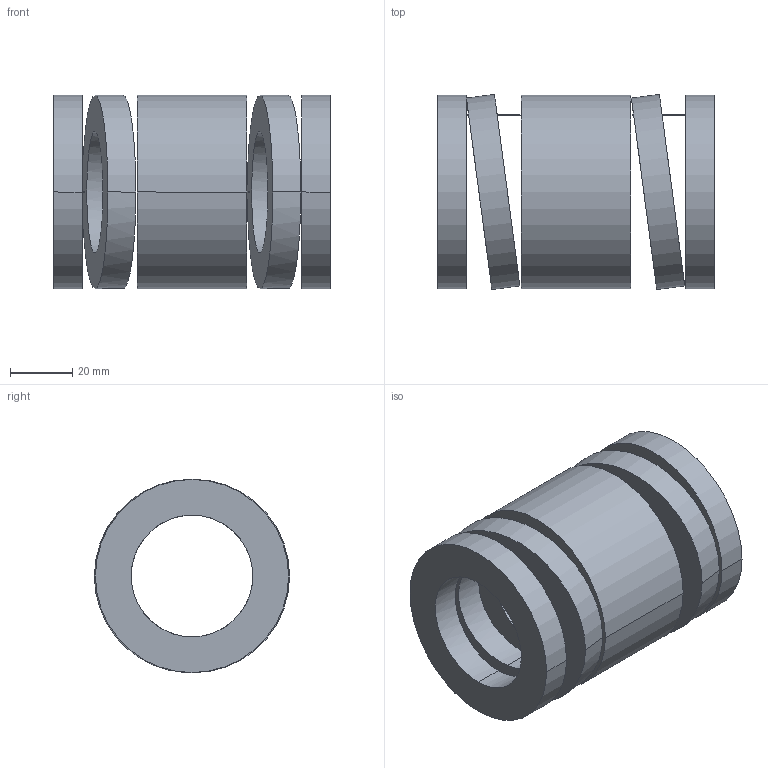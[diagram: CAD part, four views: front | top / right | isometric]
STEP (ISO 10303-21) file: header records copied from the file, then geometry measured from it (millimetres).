
FILE_DESCRIPTION(('CATIA V5 STEP Exchange'),'2;1');
FILE_NAME('C:\Users\Utente\Desktop\IO LAVORO\3D X SITO CF\X SITO\3D files 392B\392-B63-089.stp','2021-08-13T12:01:00+00:00',('none'),('none'),'CATIA Version 5 Release 20 GA (IN-10)','CATIA V5 STEP AP203','none');
FILE_SCHEMA(('CONFIG_CONTROL_DESIGN'));
Length unit declared in the file: millimetre
Products named in the file (1): 392-B63-089
Bounding box: 89 x 62.86 x 62.2 mm (x, y, z)
Volume: 131324.3 mm3; surface area: 41177.3 mm2
Topology: 1 solids, 1 shells, 38 faces, 92 edges, 64 vertices
Faces by surface type: cylinder 28, plane 10
Entity records: 1590 total; most frequent: CARTESIAN_POINT 705, ORIENTED_EDGE 184, DIRECTION 127, EDGE_CURVE 92, VERTEX_POINT 64, AXIS2_PLACEMENT_3D 62, EDGE_LOOP 56, B_SPLINE_CURVE_WITH_KNOTS 41
